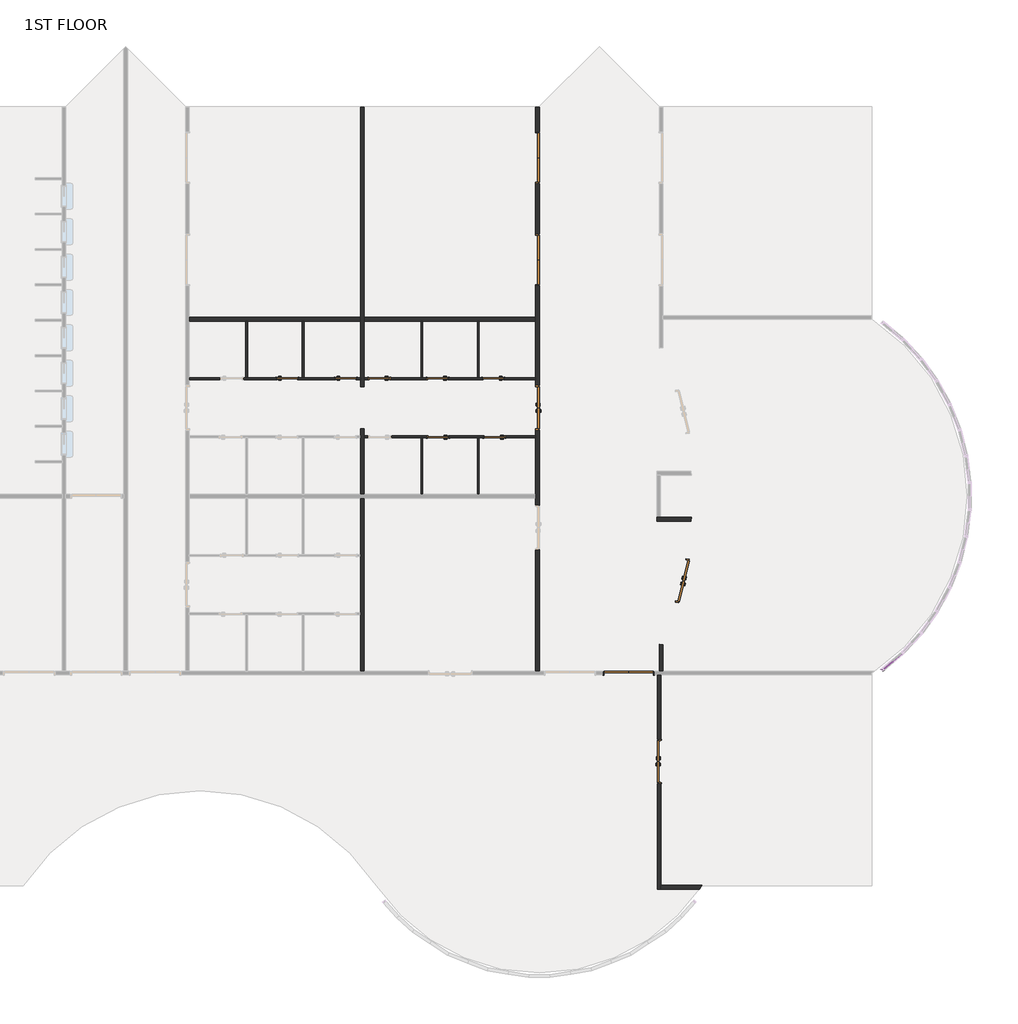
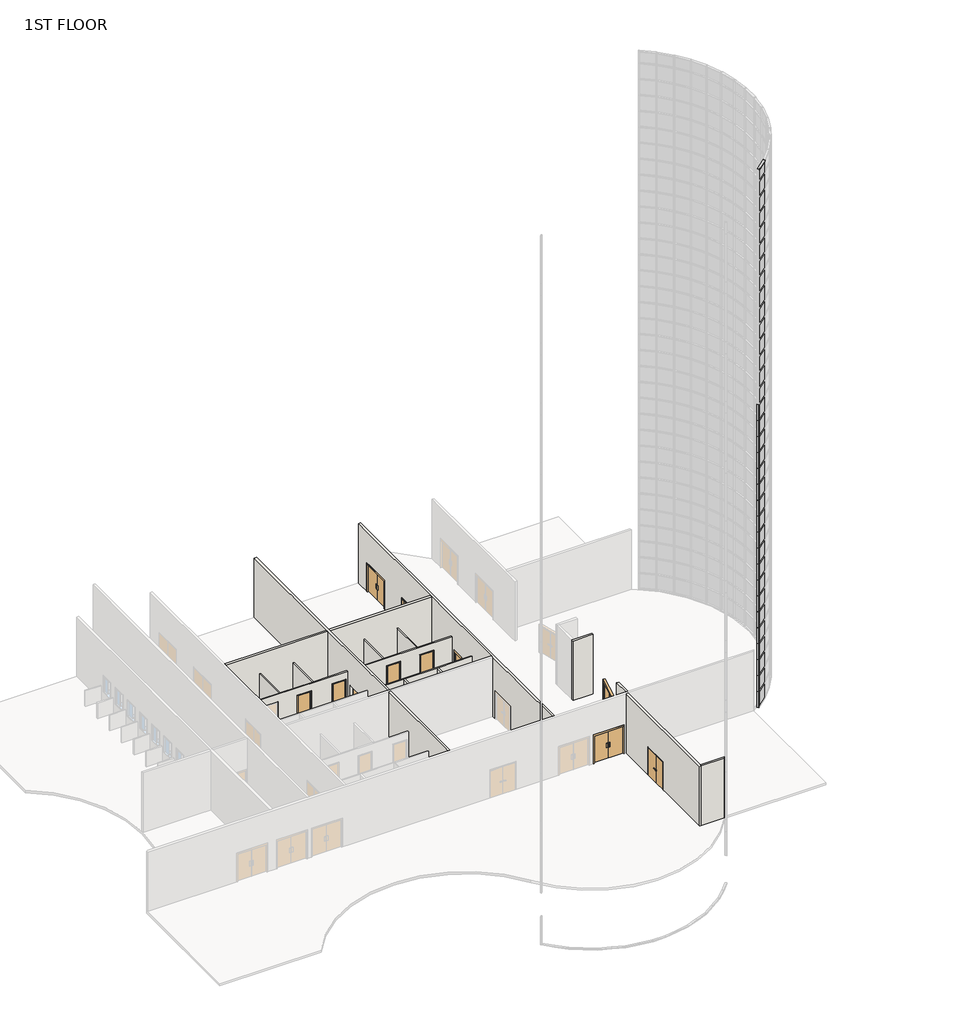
# One storey, part 3 of 17: 34 plates, 20 members, 16 walls, 13 doors.
"""IFC4 building model written with IfcOpenShell, lengths in millimetres."""

from ifc_helpers import new_model, si_unit, point, frame, frame_2d, origin, place, context, project, spatial, polyline, circle_curve, trimmed, segment, composite_curve, outline, extrude, faceted_brep, transform, mapped, element, save
from ifc_brep_helpers import plane_surface, cylinder_surface, advanced_brep
from components import door_2f250f70, door_df8e76c5, door_0b13e4d9, door_979b1b8c, door_f8b587be, member_8b20f1e8, member_75074519, system_panel_glazed_523f05bf, system_panel_glazed_4e7d67ad, system_panel_glazed_17a02f56

model = new_model("IFC4")

# Units and contexts
model_context = context("Model", 3, world=origin())
ifc_project = project(units=[si_unit("LENGTHUNIT", "METRE", prefix="MILLI")], contexts=[model_context])

# Site, building, storey
site = spatial("IfcSite", under=ifc_project)
building = spatial("IfcBuilding", under=site)
storey = spatial("IfcBuildingStorey", under=building, Name="1ST FLOOR", Elevation=4572.0)

# Doors
placement = place(None, origin())
door_shape = door_2f250f70(model_context)
element("IfcDoor", 1, ObjectType="Door-Passage-Double-Flush : 72\" x 82\"", at=placement, inside=storey, context=model_context, shape_type="MappedRepresentation", body=[
    mapped(door_shape, transform((34887.5089577, 5494.3375, 4572.0), x_axis=(0.0, 1.0, 0.0), y_axis=(-1.0, 0.0, 0.0), z_axis=(0.0, 0.0, 1.0))),
])
door_2_shape = door_df8e76c5(model_context)
element("IfcDoor", 2, ObjectType="Door-Passage-Double-Flush : 72\" x 82\"", at=placement, inside=storey, context=model_context, shape_type="MappedRepresentation", body=[
    mapped(door_2_shape, transform((35886.7385063, 13277.3403388, 4572.0), x_axis=(0.23936619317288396, 0.9709293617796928, 0.0), y_axis=(-0.9709293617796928, 0.23936619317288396, 0.0), z_axis=(0.0, 0.0, 1.0))),
])
element("IfcDoor", 3, ObjectType="Door-Passage-Double-Flush : 72\" x 82\"", at=placement, inside=storey, context=model_context, shape_type="MappedRepresentation", body=[
    mapped(door_2_shape, transform((29628.0650257, 20729.575, 4572.0), x_axis=(0.0, 1.0, 0.0), y_axis=(-1.0, 0.0, 0.0), z_axis=(0.0, 0.0, 1.0))),
])
door_3_shape = door_0b13e4d9(model_context)
element("IfcDoor", 4, ObjectType="Door-Passage-Double-Flush-Dbl_Acting : 84\" x 84\"", at=placement, inside=storey, context=model_context, shape_type="MappedRepresentation", body=[
    mapped(door_3_shape, transform((33564.0300515, 9293.225, 4572.0), x_axis=(-1.0, 0.0, 0.0), y_axis=(0.0, -1.0, 0.0), z_axis=(0.0, 0.0, 1.0))),
])
element("IfcDoor", 5, ObjectType="Door-Passage-Double-Flush-Dbl_Acting : 84\" x 84\"", at=placement, inside=storey, context=model_context, shape_type="MappedRepresentation", body=[
    mapped(door_3_shape, transform((29628.0650257, 31499.175, 4572.0), x_axis=(0.0, 1.0, 0.0), y_axis=(-1.0, 0.0, 0.0), z_axis=(0.0, 0.0, 1.0))),
])
element("IfcDoor", 6, ObjectType="Door-Passage-Double-Flush-Dbl_Acting : 84\" x 84\"", at=placement, inside=storey, context=model_context, shape_type="MappedRepresentation", body=[
    mapped(door_3_shape, transform((29628.0650257, 27101.8, 4572.0), x_axis=(0.0, 1.0, 0.0), y_axis=(-1.0, 0.0, 0.0), z_axis=(0.0, 0.0, 1.0))),
])
door_4_shape = door_979b1b8c(model_context)
element("IfcDoor", 7, ObjectType="Door-Passage-Single-Flush : 36\" x 96\"", at=placement, inside=storey, context=model_context, shape_type="MappedRepresentation", body=[
    mapped(door_4_shape, transform((18855.2900257, 21977.35, 4572.0), x_axis=(1.0, 0.0, 0.0), y_axis=(0.0, 1.0, 0.0), z_axis=(0.0, 0.0, 1.0))),
])
element("IfcDoor", 8, ObjectType="Door-Passage-Single-Flush : 36\" x 96\"", at=placement, inside=storey, context=model_context, shape_type="MappedRepresentation", body=[
    mapped(door_4_shape, transform((21373.0650257, 21977.35, 4572.0), x_axis=(1.0, 0.0, 0.0), y_axis=(0.0, 1.0, 0.0), z_axis=(0.0, 0.0, 1.0))),
])
element("IfcDoor", 9, ObjectType="Door-Passage-Single-Flush : 36\" x 96\"", at=placement, inside=storey, context=model_context, shape_type="MappedRepresentation", body=[
    mapped(door_4_shape, transform((27778.6275257, 19481.8, 4572.0), x_axis=(-1.0, 0.0, 0.0), y_axis=(0.0, -1.0, 0.0), z_axis=(0.0, 0.0, 1.0))),
])
element("IfcDoor", 10, ObjectType="Door-Passage-Single-Flush : 36\" x 96\"", at=placement, inside=storey, context=model_context, shape_type="MappedRepresentation", body=[
    mapped(door_4_shape, transform((25348.1650257, 19481.8, 4572.0), x_axis=(-1.0, 0.0, 0.0), y_axis=(0.0, -1.0, 0.0), z_axis=(0.0, 0.0, 1.0))),
])
door_5_shape = door_f8b587be(model_context)
element("IfcDoor", 11, ObjectType="Door-Passage-Single-Flush : 36\" x 96\"", at=placement, inside=storey, context=model_context, shape_type="MappedRepresentation", body=[
    mapped(door_5_shape, transform((27727.8275257, 21977.35, 4572.0), x_axis=(-1.0, 0.0, 0.0), y_axis=(0.0, -1.0, 0.0), z_axis=(0.0, 0.0, 1.0))),
])
element("IfcDoor", 12, ObjectType="Door-Passage-Single-Flush : 36\" x 96\"", at=placement, inside=storey, context=model_context, shape_type="MappedRepresentation", body=[
    mapped(door_5_shape, transform((25329.1150257, 21977.35, 4572.0), x_axis=(-1.0, 0.0, 0.0), y_axis=(0.0, -1.0, 0.0), z_axis=(0.0, 0.0, 1.0))),
])
element("IfcDoor", 13, ObjectType="Door-Passage-Single-Flush : 36\" x 96\"", at=placement, inside=storey, context=model_context, shape_type="MappedRepresentation", body=[
    mapped(door_5_shape, transform((22811.3400257, 21977.35, 4572.0), x_axis=(-1.0, 0.0, 0.0), y_axis=(0.0, -1.0, 0.0), z_axis=(0.0, 0.0, 1.0))),
])

# Members
member_shape = member_8b20f1e8(model_context)
element("IfcMember", 14, ObjectType="Rectangular Mullion : 2.5\" x 5\" rectangular", at=placement, inside=storey, context=model_context, shape_type="MappedRepresentation", body=[
    mapped(member_shape, transform((44528.7242152, 9465.6708976, 45720.0), x_axis=(0.0, 0.0, 1.0), y_axis=(-0.6412039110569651, 0.7673705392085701, 0.0), z_axis=(-0.7673705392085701, -0.6412039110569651, 0.0))),
])
member_2_shape = member_75074519(model_context)
element("IfcMember", 15, ObjectType="Rectangular Mullion : 2.5\" x 5\" rectangular", at=placement, inside=storey, context=model_context, shape_type="MappedRepresentation", body=[
    mapped(member_2_shape, transform((44479.996186, 9424.9544493, 4572.0), x_axis=(-0.7673705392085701, -0.6412039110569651, 0.0), y_axis=(-0.6412039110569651, 0.7673705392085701, 0.0), z_axis=(0.0, 0.0, -1.0))),
])
element("IfcMember", 16, ObjectType="Rectangular Mullion : 2.5\" x 5\" rectangular", at=placement, inside=storey, context=model_context, shape_type="MappedRepresentation", body=[
    mapped(member_2_shape, transform((44479.996186, 9424.9544493, 5791.2), x_axis=(-0.7673705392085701, -0.6412039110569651, 0.0), y_axis=(-0.6412039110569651, 0.7673705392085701, 0.0), z_axis=(0.0, 0.0, -1.0))),
])
element("IfcMember", 17, ObjectType="Rectangular Mullion : 2.5\" x 5\" rectangular", at=placement, inside=storey, context=model_context, shape_type="MappedRepresentation", body=[
    mapped(member_2_shape, transform((44479.996186, 9424.9544493, 7010.4), x_axis=(-0.7673705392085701, -0.6412039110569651, 0.0), y_axis=(-0.6412039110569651, 0.7673705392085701, 0.0), z_axis=(0.0, 0.0, -1.0))),
])
element("IfcMember", 18, ObjectType="Rectangular Mullion : 2.5\" x 5\" rectangular", at=placement, inside=storey, context=model_context, shape_type="MappedRepresentation", body=[
    mapped(member_2_shape, transform((44479.996186, 9424.9544493, 8229.6), x_axis=(-0.7673705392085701, -0.6412039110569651, 0.0), y_axis=(-0.6412039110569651, 0.7673705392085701, 0.0), z_axis=(0.0, 0.0, -1.0))),
])
element("IfcMember", 19, ObjectType="Rectangular Mullion : 2.5\" x 5\" rectangular", at=placement, inside=storey, context=model_context, shape_type="MappedRepresentation", body=[
    mapped(member_2_shape, transform((44479.996186, 9424.9544493, 9448.8), x_axis=(-0.7673705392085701, -0.6412039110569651, 0.0), y_axis=(-0.6412039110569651, 0.7673705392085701, 0.0), z_axis=(0.0, 0.0, -1.0))),
])
element("IfcMember", 20, ObjectType="Rectangular Mullion : 2.5\" x 5\" rectangular", at=placement, inside=storey, context=model_context, shape_type="MappedRepresentation", body=[
    mapped(member_2_shape, transform((44479.996186, 9424.9544493, 10668.0), x_axis=(-0.7673705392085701, -0.6412039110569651, 0.0), y_axis=(-0.6412039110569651, 0.7673705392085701, 0.0), z_axis=(0.0, 0.0, -1.0))),
])
element("IfcMember", 21, ObjectType="Rectangular Mullion : 2.5\" x 5\" rectangular", at=placement, inside=storey, context=model_context, shape_type="MappedRepresentation", body=[
    mapped(member_2_shape, transform((44479.996186, 9424.9544493, 11887.2), x_axis=(-0.7673705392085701, -0.6412039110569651, 0.0), y_axis=(-0.6412039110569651, 0.7673705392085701, 0.0), z_axis=(0.0, 0.0, -1.0))),
])
element("IfcMember", 22, ObjectType="Rectangular Mullion : 2.5\" x 5\" rectangular", at=placement, inside=storey, context=model_context, shape_type="MappedRepresentation", body=[
    mapped(member_2_shape, transform((44479.996186, 9424.9544493, 13106.4), x_axis=(-0.7673705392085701, -0.6412039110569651, 0.0), y_axis=(-0.6412039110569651, 0.7673705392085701, 0.0), z_axis=(0.0, 0.0, -1.0))),
])
element("IfcMember", 23, ObjectType="Rectangular Mullion : 2.5\" x 5\" rectangular", at=placement, inside=storey, context=model_context, shape_type="MappedRepresentation", body=[
    mapped(member_2_shape, transform((44479.996186, 9424.9544493, 14325.6), x_axis=(-0.7673705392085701, -0.6412039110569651, 0.0), y_axis=(-0.6412039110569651, 0.7673705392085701, 0.0), z_axis=(0.0, 0.0, -1.0))),
])
element("IfcMember", 24, ObjectType="Rectangular Mullion : 2.5\" x 5\" rectangular", at=placement, inside=storey, context=model_context, shape_type="MappedRepresentation", body=[
    mapped(member_2_shape, transform((44479.996186, 9424.9544493, 15544.8), x_axis=(-0.7673705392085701, -0.6412039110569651, 0.0), y_axis=(-0.6412039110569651, 0.7673705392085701, 0.0), z_axis=(0.0, 0.0, -1.0))),
])
element("IfcMember", 25, ObjectType="Rectangular Mullion : 2.5\" x 5\" rectangular", at=placement, inside=storey, context=model_context, shape_type="MappedRepresentation", body=[
    mapped(member_2_shape, transform((44479.996186, 9424.9544493, 16764.0), x_axis=(-0.7673705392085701, -0.6412039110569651, 0.0), y_axis=(-0.6412039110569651, 0.7673705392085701, 0.0), z_axis=(0.0, 0.0, -1.0))),
])
element("IfcMember", 26, ObjectType="Rectangular Mullion : 2.5\" x 5\" rectangular", at=placement, inside=storey, context=model_context, shape_type="MappedRepresentation", body=[
    mapped(member_2_shape, transform((44479.996186, 9424.9544493, 17983.2), x_axis=(-0.7673705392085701, -0.6412039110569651, 0.0), y_axis=(-0.6412039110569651, 0.7673705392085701, 0.0), z_axis=(0.0, 0.0, -1.0))),
])
element("IfcMember", 27, ObjectType="Rectangular Mullion : 2.5\" x 5\" rectangular", at=placement, inside=storey, context=model_context, shape_type="MappedRepresentation", body=[
    mapped(member_2_shape, transform((44479.996186, 9424.9544493, 19202.4), x_axis=(-0.7673705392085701, -0.6412039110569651, 0.0), y_axis=(-0.6412039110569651, 0.7673705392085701, 0.0), z_axis=(0.0, 0.0, -1.0))),
])
element("IfcMember", 28, ObjectType="Rectangular Mullion : 2.5\" x 5\" rectangular", at=placement, inside=storey, context=model_context, shape_type="MappedRepresentation", body=[
    mapped(member_2_shape, transform((44479.996186, 9424.9544493, 20421.6), x_axis=(-0.7673705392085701, -0.6412039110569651, 0.0), y_axis=(-0.6412039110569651, 0.7673705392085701, 0.0), z_axis=(0.0, 0.0, -1.0))),
])
element("IfcMember", 29, ObjectType="Rectangular Mullion : 2.5\" x 5\" rectangular", at=placement, inside=storey, context=model_context, shape_type="MappedRepresentation", body=[
    mapped(member_2_shape, transform((44479.996186, 9424.9544493, 21640.8), x_axis=(-0.7673705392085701, -0.6412039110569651, 0.0), y_axis=(-0.6412039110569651, 0.7673705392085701, 0.0), z_axis=(0.0, 0.0, -1.0))),
])
element("IfcMember", 30, ObjectType="Rectangular Mullion : 2.5\" x 5\" rectangular", at=placement, inside=storey, context=model_context, shape_type="MappedRepresentation", body=[
    mapped(member_2_shape, transform((44479.996186, 9424.9544493, 22860.0), x_axis=(-0.7673705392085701, -0.6412039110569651, 0.0), y_axis=(-0.6412039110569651, 0.7673705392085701, 0.0), z_axis=(0.0, 0.0, -1.0))),
])
element("IfcMember", 31, ObjectType="Rectangular Mullion : 2.5\" x 5\" rectangular", at=placement, inside=storey, context=model_context, shape_type="MappedRepresentation", body=[
    mapped(member_2_shape, transform((44479.996186, 9424.9544493, 24079.2), x_axis=(-0.7673705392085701, -0.6412039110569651, 0.0), y_axis=(-0.6412039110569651, 0.7673705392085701, 0.0), z_axis=(0.0, 0.0, -1.0))),
])
element("IfcMember", 32, ObjectType="Rectangular Mullion : 2.5\" x 5\" rectangular", at=placement, inside=storey, context=model_context, shape_type="MappedRepresentation", body=[
    mapped(member_2_shape, transform((44479.996186, 9424.9544493, 25298.4), x_axis=(-0.7673705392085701, -0.6412039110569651, 0.0), y_axis=(-0.6412039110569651, 0.7673705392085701, 0.0), z_axis=(0.0, 0.0, -1.0))),
])
element("IfcMember", 33, ObjectType="Rectangular Mullion : 2.5\" x 5\" rectangular", at=placement, inside=storey, context=model_context, shape_type="MappedRepresentation", body=[
    mapped(member_2_shape, transform((44479.996186, 9424.9544493, 26517.6), x_axis=(-0.7673705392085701, -0.6412039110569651, 0.0), y_axis=(-0.6412039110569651, 0.7673705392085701, 0.0), z_axis=(0.0, 0.0, -1.0))),
])

# Plates
system_panel_glazed_shape = system_panel_glazed_523f05bf(model_context)
element("IfcPlate", 34, ObjectType="System Panel : Glazed", at=placement, inside=storey, context=model_context, shape_type="MappedRepresentation", body=[
    mapped(system_panel_glazed_shape, transform((44937.7643703, 9807.459035, 4635.5), x_axis=(-0.7673705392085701, -0.6412039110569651, 0.0), y_axis=(0.6412039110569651, -0.7673705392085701, 0.0), z_axis=(0.0, 0.0, 1.0))),
])
system_panel_glazed_2_shape = system_panel_glazed_4e7d67ad(model_context)
element("IfcPlate", 35, ObjectType="System Panel : Glazed", at=placement, inside=storey, context=model_context, shape_type="MappedRepresentation", body=[
    mapped(system_panel_glazed_2_shape, transform((44937.7643703, 9807.459035, 5822.95), x_axis=(-0.7673705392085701, -0.6412039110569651, 0.0), y_axis=(0.6412039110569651, -0.7673705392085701, 0.0), z_axis=(0.0, 0.0, 1.0))),
])
element("IfcPlate", 36, ObjectType="System Panel : Glazed", at=placement, inside=storey, context=model_context, shape_type="MappedRepresentation", body=[
    mapped(system_panel_glazed_2_shape, transform((44937.7643703, 9807.459035, 7042.15), x_axis=(-0.7673705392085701, -0.6412039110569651, 0.0), y_axis=(0.6412039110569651, -0.7673705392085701, 0.0), z_axis=(0.0, 0.0, 1.0))),
])
element("IfcPlate", 37, ObjectType="System Panel : Glazed", at=placement, inside=storey, context=model_context, shape_type="MappedRepresentation", body=[
    mapped(system_panel_glazed_2_shape, transform((44937.7643703, 9807.459035, 8261.35), x_axis=(-0.7673705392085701, -0.6412039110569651, 0.0), y_axis=(0.6412039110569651, -0.7673705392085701, 0.0), z_axis=(0.0, 0.0, 1.0))),
])
element("IfcPlate", 38, ObjectType="System Panel : Glazed", at=placement, inside=storey, context=model_context, shape_type="MappedRepresentation", body=[
    mapped(system_panel_glazed_2_shape, transform((44937.7643703, 9807.459035, 9480.55), x_axis=(-0.7673705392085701, -0.6412039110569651, 0.0), y_axis=(0.6412039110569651, -0.7673705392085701, 0.0), z_axis=(0.0, 0.0, 1.0))),
])
element("IfcPlate", 39, ObjectType="System Panel : Glazed", at=placement, inside=storey, context=model_context, shape_type="MappedRepresentation", body=[
    mapped(system_panel_glazed_2_shape, transform((44937.7643703, 9807.459035, 10699.75), x_axis=(-0.7673705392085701, -0.6412039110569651, 0.0), y_axis=(0.6412039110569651, -0.7673705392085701, 0.0), z_axis=(0.0, 0.0, 1.0))),
])
element("IfcPlate", 40, ObjectType="System Panel : Glazed", at=placement, inside=storey, context=model_context, shape_type="MappedRepresentation", body=[
    mapped(system_panel_glazed_2_shape, transform((44937.7643703, 9807.459035, 11918.95), x_axis=(-0.7673705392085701, -0.6412039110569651, 0.0), y_axis=(0.6412039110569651, -0.7673705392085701, 0.0), z_axis=(0.0, 0.0, 1.0))),
])
element("IfcPlate", 41, ObjectType="System Panel : Glazed", at=placement, inside=storey, context=model_context, shape_type="MappedRepresentation", body=[
    mapped(system_panel_glazed_2_shape, transform((44937.7643703, 9807.459035, 13138.15), x_axis=(-0.7673705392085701, -0.6412039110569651, 0.0), y_axis=(0.6412039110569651, -0.7673705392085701, 0.0), z_axis=(0.0, 0.0, 1.0))),
])
element("IfcPlate", 42, ObjectType="System Panel : Glazed", at=placement, inside=storey, context=model_context, shape_type="MappedRepresentation", body=[
    mapped(system_panel_glazed_2_shape, transform((44937.7643703, 9807.459035, 14357.35), x_axis=(-0.7673705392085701, -0.6412039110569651, 0.0), y_axis=(0.6412039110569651, -0.7673705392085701, 0.0), z_axis=(0.0, 0.0, 1.0))),
])
element("IfcPlate", 43, ObjectType="System Panel : Glazed", at=placement, inside=storey, context=model_context, shape_type="MappedRepresentation", body=[
    mapped(system_panel_glazed_2_shape, transform((44937.7643703, 9807.459035, 15576.55), x_axis=(-0.7673705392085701, -0.6412039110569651, 0.0), y_axis=(0.6412039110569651, -0.7673705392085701, 0.0), z_axis=(0.0, 0.0, 1.0))),
])
element("IfcPlate", 44, ObjectType="System Panel : Glazed", at=placement, inside=storey, context=model_context, shape_type="MappedRepresentation", body=[
    mapped(system_panel_glazed_2_shape, transform((44937.7643703, 9807.459035, 16795.75), x_axis=(-0.7673705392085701, -0.6412039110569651, 0.0), y_axis=(0.6412039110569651, -0.7673705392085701, 0.0), z_axis=(0.0, 0.0, 1.0))),
])
element("IfcPlate", 45, ObjectType="System Panel : Glazed", at=placement, inside=storey, context=model_context, shape_type="MappedRepresentation", body=[
    mapped(system_panel_glazed_2_shape, transform((44937.7643703, 9807.459035, 18014.95), x_axis=(-0.7673705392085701, -0.6412039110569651, 0.0), y_axis=(0.6412039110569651, -0.7673705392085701, 0.0), z_axis=(0.0, 0.0, 1.0))),
])
element("IfcPlate", 46, ObjectType="System Panel : Glazed", at=placement, inside=storey, context=model_context, shape_type="MappedRepresentation", body=[
    mapped(system_panel_glazed_2_shape, transform((44937.7643703, 9807.459035, 19234.15), x_axis=(-0.7673705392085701, -0.6412039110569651, 0.0), y_axis=(0.6412039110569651, -0.7673705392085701, 0.0), z_axis=(0.0, 0.0, 1.0))),
])
element("IfcPlate", 47, ObjectType="System Panel : Glazed", at=placement, inside=storey, context=model_context, shape_type="MappedRepresentation", body=[
    mapped(system_panel_glazed_2_shape, transform((44937.7643703, 9807.459035, 20453.35), x_axis=(-0.7673705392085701, -0.6412039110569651, 0.0), y_axis=(0.6412039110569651, -0.7673705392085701, 0.0), z_axis=(0.0, 0.0, 1.0))),
])
element("IfcPlate", 48, ObjectType="System Panel : Glazed", at=placement, inside=storey, context=model_context, shape_type="MappedRepresentation", body=[
    mapped(system_panel_glazed_2_shape, transform((44937.7643703, 9807.459035, 21672.55), x_axis=(-0.7673705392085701, -0.6412039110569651, 0.0), y_axis=(0.6412039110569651, -0.7673705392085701, 0.0), z_axis=(0.0, 0.0, 1.0))),
])
element("IfcPlate", 49, ObjectType="System Panel : Glazed", at=placement, inside=storey, context=model_context, shape_type="MappedRepresentation", body=[
    mapped(system_panel_glazed_2_shape, transform((44937.7643703, 9807.459035, 22891.75), x_axis=(-0.7673705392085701, -0.6412039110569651, 0.0), y_axis=(0.6412039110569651, -0.7673705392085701, 0.0), z_axis=(0.0, 0.0, 1.0))),
])
element("IfcPlate", 50, ObjectType="System Panel : Glazed", at=placement, inside=storey, context=model_context, shape_type="MappedRepresentation", body=[
    mapped(system_panel_glazed_2_shape, transform((44937.7643703, 9807.459035, 24110.95), x_axis=(-0.7673705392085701, -0.6412039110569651, 0.0), y_axis=(0.6412039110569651, -0.7673705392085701, 0.0), z_axis=(0.0, 0.0, 1.0))),
])
element("IfcPlate", 51, ObjectType="System Panel : Glazed", at=placement, inside=storey, context=model_context, shape_type="MappedRepresentation", body=[
    mapped(system_panel_glazed_2_shape, transform((44937.7643703, 9807.459035, 25330.15), x_axis=(-0.7673705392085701, -0.6412039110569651, 0.0), y_axis=(0.6412039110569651, -0.7673705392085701, 0.0), z_axis=(0.0, 0.0, 1.0))),
])
element("IfcPlate", 52, ObjectType="System Panel : Glazed", at=placement, inside=storey, context=model_context, shape_type="MappedRepresentation", body=[
    mapped(system_panel_glazed_2_shape, transform((44937.7643703, 9807.459035, 26549.35), x_axis=(-0.7673705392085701, -0.6412039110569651, 0.0), y_axis=(0.6412039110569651, -0.7673705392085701, 0.0), z_axis=(0.0, 0.0, 1.0))),
])
element("IfcPlate", 53, ObjectType="System Panel : Glazed", at=placement, inside=storey, context=model_context, shape_type="MappedRepresentation", body=[
    mapped(system_panel_glazed_2_shape, transform((44937.7643703, 9807.459035, 27768.55), x_axis=(-0.7673705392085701, -0.6412039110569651, 0.0), y_axis=(0.6412039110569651, -0.7673705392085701, 0.0), z_axis=(0.0, 0.0, 1.0))),
])
element("IfcPlate", 54, ObjectType="System Panel : Glazed", at=placement, inside=storey, context=model_context, shape_type="MappedRepresentation", body=[
    mapped(system_panel_glazed_2_shape, transform((44937.7643703, 9807.459035, 28987.75), x_axis=(-0.7673705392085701, -0.6412039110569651, 0.0), y_axis=(0.6412039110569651, -0.7673705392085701, 0.0), z_axis=(0.0, 0.0, 1.0))),
])
element("IfcPlate", 55, ObjectType="System Panel : Glazed", at=placement, inside=storey, context=model_context, shape_type="MappedRepresentation", body=[
    mapped(system_panel_glazed_2_shape, transform((44937.7643703, 9807.459035, 30206.95), x_axis=(-0.7673705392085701, -0.6412039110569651, 0.0), y_axis=(0.6412039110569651, -0.7673705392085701, 0.0), z_axis=(0.0, 0.0, 1.0))),
])
element("IfcPlate", 56, ObjectType="System Panel : Glazed", at=placement, inside=storey, context=model_context, shape_type="MappedRepresentation", body=[
    mapped(system_panel_glazed_2_shape, transform((44937.7643703, 9807.459035, 31426.15), x_axis=(-0.7673705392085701, -0.6412039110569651, 0.0), y_axis=(0.6412039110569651, -0.7673705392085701, 0.0), z_axis=(0.0, 0.0, 1.0))),
])
element("IfcPlate", 57, ObjectType="System Panel : Glazed", at=placement, inside=storey, context=model_context, shape_type="MappedRepresentation", body=[
    mapped(system_panel_glazed_2_shape, transform((44937.7643703, 9807.459035, 32645.35), x_axis=(-0.7673705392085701, -0.6412039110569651, 0.0), y_axis=(0.6412039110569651, -0.7673705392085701, 0.0), z_axis=(0.0, 0.0, 1.0))),
])
element("IfcPlate", 58, ObjectType="System Panel : Glazed", at=placement, inside=storey, context=model_context, shape_type="MappedRepresentation", body=[
    mapped(system_panel_glazed_2_shape, transform((44937.7643703, 9807.459035, 33864.55), x_axis=(-0.7673705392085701, -0.6412039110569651, 0.0), y_axis=(0.6412039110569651, -0.7673705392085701, 0.0), z_axis=(0.0, 0.0, 1.0))),
])
element("IfcPlate", 59, ObjectType="System Panel : Glazed", at=placement, inside=storey, context=model_context, shape_type="MappedRepresentation", body=[
    mapped(system_panel_glazed_2_shape, transform((44937.7643703, 9807.459035, 35083.75), x_axis=(-0.7673705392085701, -0.6412039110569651, 0.0), y_axis=(0.6412039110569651, -0.7673705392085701, 0.0), z_axis=(0.0, 0.0, 1.0))),
])
element("IfcPlate", 60, ObjectType="System Panel : Glazed", at=placement, inside=storey, context=model_context, shape_type="MappedRepresentation", body=[
    mapped(system_panel_glazed_2_shape, transform((44937.7643703, 9807.459035, 36302.95), x_axis=(-0.7673705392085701, -0.6412039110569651, 0.0), y_axis=(0.6412039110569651, -0.7673705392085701, 0.0), z_axis=(0.0, 0.0, 1.0))),
])
element("IfcPlate", 61, ObjectType="System Panel : Glazed", at=placement, inside=storey, context=model_context, shape_type="MappedRepresentation", body=[
    mapped(system_panel_glazed_2_shape, transform((44937.7643703, 9807.459035, 37522.15), x_axis=(-0.7673705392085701, -0.6412039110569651, 0.0), y_axis=(0.6412039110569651, -0.7673705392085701, 0.0), z_axis=(0.0, 0.0, 1.0))),
])
element("IfcPlate", 62, ObjectType="System Panel : Glazed", at=placement, inside=storey, context=model_context, shape_type="MappedRepresentation", body=[
    mapped(system_panel_glazed_2_shape, transform((44937.7643703, 9807.459035, 38741.35), x_axis=(-0.7673705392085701, -0.6412039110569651, 0.0), y_axis=(0.6412039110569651, -0.7673705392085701, 0.0), z_axis=(0.0, 0.0, 1.0))),
])
element("IfcPlate", 63, ObjectType="System Panel : Glazed", at=placement, inside=storey, context=model_context, shape_type="MappedRepresentation", body=[
    mapped(system_panel_glazed_2_shape, transform((44937.7643703, 9807.459035, 39960.55), x_axis=(-0.7673705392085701, -0.6412039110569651, 0.0), y_axis=(0.6412039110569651, -0.7673705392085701, 0.0), z_axis=(0.0, 0.0, 1.0))),
])
element("IfcPlate", 64, ObjectType="System Panel : Glazed", at=placement, inside=storey, context=model_context, shape_type="MappedRepresentation", body=[
    mapped(system_panel_glazed_2_shape, transform((44937.7643703, 9807.459035, 41179.75), x_axis=(-0.7673705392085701, -0.6412039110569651, 0.0), y_axis=(0.6412039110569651, -0.7673705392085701, 0.0), z_axis=(0.0, 0.0, 1.0))),
])
element("IfcPlate", 65, ObjectType="System Panel : Glazed", at=placement, inside=storey, context=model_context, shape_type="MappedRepresentation", body=[
    mapped(system_panel_glazed_2_shape, transform((44937.7643703, 9807.459035, 42398.95), x_axis=(-0.7673705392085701, -0.6412039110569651, 0.0), y_axis=(0.6412039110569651, -0.7673705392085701, 0.0), z_axis=(0.0, 0.0, 1.0))),
])
element("IfcPlate", 66, ObjectType="System Panel : Glazed", at=placement, inside=storey, context=model_context, shape_type="MappedRepresentation", body=[
    mapped(system_panel_glazed_2_shape, transform((44937.7643703, 9807.459035, 43618.15), x_axis=(-0.7673705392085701, -0.6412039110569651, 0.0), y_axis=(0.6412039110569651, -0.7673705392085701, 0.0), z_axis=(0.0, 0.0, 1.0))),
])
system_panel_glazed_3_shape = system_panel_glazed_17a02f56(model_context)
element("IfcPlate", 67, ObjectType="System Panel : Glazed", at=placement, inside=storey, context=model_context, shape_type="MappedRepresentation", body=[
    mapped(system_panel_glazed_3_shape, transform((44937.7643703, 9807.459035, 44837.35), x_axis=(-0.7673705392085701, -0.6412039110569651, 0.0), y_axis=(0.6412039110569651, -0.7673705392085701, 0.0), z_axis=(0.0, 0.0, 1.0))),
])

# Walls
element("IfcWall", 68, ObjectType="SYR_INT_ONE_HOUR", at=placement, inside=storey, context=model_context, shape_type="SweptSolid", body=[
    extrude(outline(polyline([(17066.1775257, 22023.3875), (17066.1775257, 24461.7875), (17145.5525257, 24461.7875), (17145.5525257, 22023.3875), (17066.1775257, 22023.3875)])), frame((0.0, 0.0, 4572.0), z_axis=(0.0, 0.0, 1.0), x_axis=(1.0, 0.0, 0.0)), (0.0, 0.0, 1.0), 3048.0),
])
element("IfcWall", 69, ObjectType="SYR_INT_ONE_HOUR", at=placement, inside=storey, context=model_context, shape_type="Brep", body=[
    faceted_brep([(14627.7775257, 22023.3875, 7620.0), (17066.1775257, 22023.3875, 7620.0), (17145.5525257, 22023.3875, 7620.0), (19496.6400257, 22023.3875, 7620.0), (19576.0150257, 22023.3875, 7620.0), (22014.4150257, 22023.3875, 7620.0), (22014.4150257, 22023.3875, 4572.0), (21862.0150257, 22023.3875, 4572.0), (21862.0150257, 22023.3875, 7042.15), (20884.1150257, 22023.3875, 7042.15), (20884.1150257, 22023.3875, 4572.0), (19576.0150257, 22023.3875, 4572.0), (19496.6400257, 22023.3875, 4572.0), (19344.2400257, 22023.3875, 4572.0), (19344.2400257, 22023.3875, 7042.15), (18366.3400257, 22023.3875, 7042.15), (18366.3400257, 22023.3875, 4572.0), (17145.5525257, 22023.3875, 4572.0), (17066.1775257, 22023.3875, 4572.0), (16945.5275257, 22023.3875, 4572.0), (16945.5275257, 22023.3875, 7042.15), (15967.6275257, 22023.3875, 7042.15), (15967.6275257, 22023.3875, 4572.0), (14627.7775257, 22023.3875, 4572.0), (22014.4150257, 21944.0125, 7620.0), (14627.7775257, 21944.0125, 7620.0), (14627.7775257, 21944.0125, 4572.0), (15967.6275257, 21944.0125, 4572.0), (15967.6275257, 21944.0125, 7042.15), (16945.5275257, 21944.0125, 7042.15), (16945.5275257, 21944.0125, 4572.0), (18366.3400257, 21944.0125, 4572.0), (18366.3400257, 21944.0125, 7042.15), (19344.2400257, 21944.0125, 7042.15), (19344.2400257, 21944.0125, 4572.0), (20884.1150257, 21944.0125, 4572.0), (20884.1150257, 21944.0125, 7042.15), (21862.0150257, 21944.0125, 7042.15), (21862.0150257, 21944.0125, 4572.0), (22014.4150257, 21944.0125, 4572.0)], [[[0, 1, 2, 3, 4, 5, 6, 7, 8, 9, 10, 11, 12, 13, 14, 15, 16, 17, 18, 19, 20, 21, 22, 23]], [[24, 25, 26, 27, 28, 29, 30, 31, 32, 33, 34, 35, 36, 37, 38, 39]], [[23, 22, 27, 26]], [[30, 19, 18, 17, 16, 31]], [[34, 13, 12, 11, 10, 35]], [[6, 39, 38, 7]], [[5, 4, 3, 2, 1, 0, 25, 24]], [[29, 20, 19, 30]], [[20, 29, 28, 21]], [[21, 28, 27, 22]], [[14, 13, 34, 33]], [[15, 14, 33, 32]], [[16, 15, 32, 31]], [[37, 8, 7, 38]], [[8, 37, 36, 9]], [[9, 36, 35, 10]], [[0, 23, 26, 25]], [[6, 5, 24, 39]]]),
])
element("IfcWall", 70, ObjectType="SYR_INT_ONE_HOUR", at=placement, inside=storey, context=model_context, shape_type="SweptSolid", body=[
    extrude(outline(polyline([(19576.0150257, 24461.7875), (19576.0150257, 22023.3875), (19496.6400257, 22023.3875), (19496.6400257, 24461.7875), (19576.0150257, 24461.7875)])), frame((0.0, 0.0, 4572.0), z_axis=(0.0, 0.0, 1.0), x_axis=(1.0, 0.0, 0.0)), (0.0, 0.0, 1.0), 3048.0),
])
element("IfcWall", 71, ObjectType="SYR_INT_ONE_HOUR", at=placement, inside=storey, context=model_context, shape_type="SweptSolid", body=[
    extrude(outline(polyline([(27038.8525257, 22023.3875), (27038.8525257, 24461.7875), (27118.2275257, 24461.7875), (27118.2275257, 22023.3875), (27038.8525257, 22023.3875)])), frame((0.0, 0.0, 4572.0), z_axis=(0.0, 0.0, 1.0), x_axis=(1.0, 0.0, 0.0)), (0.0, 0.0, 1.0), 3048.0),
])
element("IfcWall", 72, ObjectType="SYR_INT_ONE_HOUR", at=placement, inside=storey, context=model_context, shape_type="SweptSolid", body=[
    extrude(outline(polyline([(24687.7650257, 19435.7625), (24687.7650257, 16997.3625), (24608.3900257, 16997.3625), (24608.3900257, 19435.7625), (24687.7650257, 19435.7625)])), frame((0.0, 0.0, 4572.0), z_axis=(0.0, 0.0, 1.0), x_axis=(1.0, 0.0, 0.0)), (0.0, 0.0, 1.0), 3048.0),
])
element("IfcWall", 73, ObjectType="SYR_INT_ONE_HOUR", at=placement, inside=storey, context=model_context, shape_type="Brep", body=[
    faceted_brep([(29556.6275257, 21944.0125, 7620.0), (22169.9900257, 21944.0125, 7620.0), (22169.9900257, 21944.0125, 4572.0), (22322.3900257, 21944.0125, 4572.0), (22322.3900257, 21944.0125, 7042.15), (23300.2900257, 21944.0125, 7042.15), (23300.2900257, 21944.0125, 4572.0), (24840.1650257, 21944.0125, 4572.0), (24840.1650257, 21944.0125, 7042.15), (25818.0650257, 21944.0125, 7042.15), (25818.0650257, 21944.0125, 4572.0), (27238.8775257, 21944.0125, 4572.0), (27238.8775257, 21944.0125, 7042.15), (28216.7775257, 21944.0125, 7042.15), (28216.7775257, 21944.0125, 4572.0), (29556.6275257, 21944.0125, 4572.0), (22169.9900257, 22023.3875, 7620.0), (24608.3900257, 22023.3875, 7620.0), (24687.7650257, 22023.3875, 7620.0), (27038.8525257, 22023.3875, 7620.0), (27118.2275257, 22023.3875, 7620.0), (29556.6275257, 22023.3875, 7620.0), (29556.6275257, 22023.3875, 4572.0), (28216.7775257, 22023.3875, 4572.0), (28216.7775257, 22023.3875, 7042.15), (27238.8775257, 22023.3875, 7042.15), (27238.8775257, 22023.3875, 4572.0), (27118.2275257, 22023.3875, 4572.0), (27038.8525257, 22023.3875, 4572.0), (25818.0650257, 22023.3875, 4572.0), (25818.0650257, 22023.3875, 7042.15), (24840.1650257, 22023.3875, 7042.15), (24840.1650257, 22023.3875, 4572.0), (24687.7650257, 22023.3875, 4572.0), (24608.3900257, 22023.3875, 4572.0), (23300.2900257, 22023.3875, 4572.0), (23300.2900257, 22023.3875, 7042.15), (22322.3900257, 22023.3875, 7042.15), (22322.3900257, 22023.3875, 4572.0), (22169.9900257, 22023.3875, 4572.0)], [[[0, 1, 2, 3, 4, 5, 6, 7, 8, 9, 10, 11, 12, 13, 14, 15]], [[16, 17, 18, 19, 20, 21, 22, 23, 24, 25, 26, 27, 28, 29, 30, 31, 32, 33, 34, 35, 36, 37, 38, 39]], [[15, 14, 23, 22]], [[26, 11, 10, 29, 28, 27]], [[32, 7, 6, 35, 34, 33]], [[2, 39, 38, 3]], [[1, 0, 21, 20, 19, 18, 17, 16]], [[25, 12, 11, 26]], [[12, 25, 24, 13]], [[13, 24, 23, 14]], [[8, 7, 32, 31]], [[9, 8, 31, 30]], [[10, 9, 30, 29]], [[37, 4, 3, 38]], [[4, 37, 36, 5]], [[5, 36, 35, 6]], [[0, 15, 22, 21]], [[2, 1, 16, 39]]]),
])
element("IfcWall", 74, ObjectType="SYR_INT_ONE_HOUR", at=placement, inside=storey, context=model_context, shape_type="Brep", body=[
    faceted_brep([(29556.6275257, 19435.7625, 7620.0), (27118.2275257, 19435.7625, 7620.0), (27038.8525257, 19435.7625, 7620.0), (24687.7650257, 19435.7625, 7620.0), (24608.3900257, 19435.7625, 7620.0), (22169.9900257, 19435.7625, 7620.0), (22169.9900257, 19435.7625, 4572.0), (22341.4400257, 19435.7625, 4572.0), (22341.4400257, 19435.7625, 7042.15), (23319.3400257, 19435.7625, 7042.15), (23319.3400257, 19435.7625, 4572.0), (24608.3900257, 19435.7625, 4572.0), (24687.7650257, 19435.7625, 4572.0), (24859.2150257, 19435.7625, 4572.0), (24859.2150257, 19435.7625, 7042.15), (25837.1150257, 19435.7625, 7042.15), (25837.1150257, 19435.7625, 4572.0), (27038.8525257, 19435.7625, 4572.0), (27118.2275257, 19435.7625, 4572.0), (27289.6775257, 19435.7625, 4572.0), (27289.6775257, 19435.7625, 7042.15), (28267.5775257, 19435.7625, 7042.15), (28267.5775257, 19435.7625, 4572.0), (29556.6275257, 19435.7625, 4572.0), (22169.9900257, 19515.1375, 7620.0), (29556.6275257, 19515.1375, 7620.0), (29556.6275257, 19515.1375, 4572.0), (28267.5775257, 19515.1375, 4572.0), (28267.5775257, 19515.1375, 7042.15), (27289.6775257, 19515.1375, 7042.15), (27289.6775257, 19515.1375, 4572.0), (25837.1150257, 19515.1375, 4572.0), (25837.1150257, 19515.1375, 7042.15), (24859.2150257, 19515.1375, 7042.15), (24859.2150257, 19515.1375, 4572.0), (23319.3400257, 19515.1375, 4572.0), (23319.3400257, 19515.1375, 7042.15), (22341.4400257, 19515.1375, 7042.15), (22341.4400257, 19515.1375, 4572.0), (22169.9900257, 19515.1375, 4572.0)], [[[0, 1, 2, 3, 4, 5, 6, 7, 8, 9, 10, 11, 12, 13, 14, 15, 16, 17, 18, 19, 20, 21, 22, 23]], [[24, 25, 26, 27, 28, 29, 30, 31, 32, 33, 34, 35, 36, 37, 38, 39]], [[23, 22, 27, 26]], [[30, 19, 18, 17, 16, 31]], [[34, 13, 12, 11, 10, 35]], [[6, 39, 38, 7]], [[5, 4, 3, 2, 1, 0, 25, 24]], [[29, 20, 19, 30]], [[20, 29, 28, 21]], [[21, 28, 27, 22]], [[33, 14, 13, 34]], [[14, 33, 32, 15]], [[15, 32, 31, 16]], [[37, 8, 7, 38]], [[8, 37, 36, 9]], [[9, 36, 35, 10]], [[0, 23, 26, 25]], [[6, 5, 24, 39]]]),
])
element("IfcWall", 75, ObjectType="SYR_INT_ONE_HOUR", at=placement, inside=storey, context=model_context, shape_type="SweptSolid", body=[
    extrude(outline(polyline([(27038.8525257, 16997.3625), (27038.8525257, 19435.7625), (27118.2275257, 19435.7625), (27118.2275257, 16997.3625), (27038.8525257, 16997.3625)])), frame((0.0, 0.0, 4572.0), z_axis=(0.0, 0.0, 1.0), x_axis=(1.0, 0.0, 0.0)), (0.0, 0.0, 1.0), 3048.0),
])
element("IfcWall", 76, ObjectType="SYR_INT_ONE_HOUR", at=placement, inside=storey, context=model_context, shape_type="SweptSolid", body=[
    extrude(outline(polyline([(24687.7650257, 24461.7875), (24687.7650257, 22023.3875), (24608.3900257, 22023.3875), (24608.3900257, 24461.7875), (24687.7650257, 24461.7875)])), frame((0.0, 0.0, 4572.0), z_axis=(0.0, 0.0, 1.0), x_axis=(1.0, 0.0, 0.0)), (0.0, 0.0, 1.0), 3048.0),
])
element("IfcWall", 77, ObjectType="SYR_INT_TWO_HOUR", at=placement, inside=storey, context=model_context, shape_type="Brep", body=[
    faceted_brep([(34803.3714577, 0.0, 9144.0), (34803.3714577, 9221.7875, 9144.0), (34803.3714577, 9221.7875, 4572.0), (34803.3714577, 6459.5375, 4572.0), (34803.3714577, 6459.5375, 6756.4), (34803.3714577, 4529.1375, 6756.4), (34803.3714577, 4529.1375, 4572.0), (34803.3714577, 0.0, 4572.0), (34958.9464577, 9221.7875, 9144.0), (34958.9464577, 155.575, 9144.0), (34958.9464577, 0.0, 9144.0), (34958.9464577, 0.0, 4572.0), (34958.9464577, 155.575, 4572.0), (34958.9464577, 4529.1375, 4572.0), (34958.9464577, 4529.1375, 6756.4), (34958.9464577, 6459.5375, 6756.4), (34958.9464577, 6459.5375, 4572.0), (34958.9464577, 9221.7875, 4572.0)], [[[0, 1, 2, 3, 4, 5, 6, 7]], [[8, 9, 10, 11, 12, 13, 14, 15, 16, 17]], [[2, 17, 16, 3]], [[11, 7, 6, 13, 12]], [[1, 0, 10, 9, 8]], [[2, 1, 8, 17]], [[0, 7, 11, 10]], [[15, 4, 3, 16]], [[4, 15, 14, 5]], [[5, 14, 13, 6]]]),
])
element("IfcWall", 78, ObjectType="SYR_INT_TWO_HOUR", at=placement, inside=storey, context=model_context, shape_type="SweptSolid", body=[
    extrude(outline(composite_curve([segment(polyline([(36607.9065696, 0.0), (34958.9464577, 0.0), (34958.9464577, 155.575), (36713.6300515, 155.575)]), True, "CONTINUOUS"), segment(trimmed(circle_curve(frame_2d((29712.2025257, 4799.7966199)), 8401.7130309), [point((36713.6300515, 155.575))], [point((36607.9065696, 0.0))], False, "CARTESIAN"), True, "CONTINUOUS")], self_intersect=False)), frame((0.0, 0.0, 4572.0), z_axis=(0.0, 0.0, 1.0), x_axis=(1.0, 0.0, 0.0)), (0.0, 0.0, 1.0), 4572.0),
])
element("IfcWall", 79, ObjectType="SYR_INT_TWO_HOUR", at=placement, inside=storey, context=model_context, shape_type="Brep", body=[
    faceted_brep([(29556.6275257, 9377.3625, 9144.0), (29556.6275257, 16841.7875, 9144.0), (29556.6275257, 16997.3625, 9144.0), (29556.6275257, 24461.7875, 9144.0), (29556.6275257, 24617.3625, 9144.0), (29556.6275257, 33683.575, 9144.0), (29556.6275257, 33683.575, 4572.0), (29556.6275257, 32616.775, 4572.0), (29556.6275257, 32616.775, 6807.2), (29556.6275257, 30381.575, 6807.2), (29556.6275257, 30381.575, 4572.0), (29556.6275257, 28219.4, 4572.0), (29556.6275257, 28219.4, 6807.2), (29556.6275257, 25984.2, 6807.2), (29556.6275257, 25984.2, 4572.0), (29556.6275257, 24617.3625, 4572.0), (29556.6275257, 24461.7875, 4572.0), (29556.6275257, 22023.3875, 4572.0), (29556.6275257, 21944.0125, 4572.0), (29556.6275257, 21694.775, 4572.0), (29556.6275257, 21694.775, 6756.4), (29556.6275257, 19764.375, 6756.4), (29556.6275257, 19764.375, 4572.0), (29556.6275257, 19515.1375, 4572.0), (29556.6275257, 19435.7625, 4572.0), (29556.6275257, 16997.3625, 4572.0), (29556.6275257, 16841.7875, 4572.0), (29556.6275257, 16536.9875, 4572.0), (29556.6275257, 16536.9875, 6756.4), (29556.6275257, 14606.5875, 6756.4), (29556.6275257, 14606.5875, 4572.0), (29556.6275257, 9377.3625, 4572.0), (29712.2025257, 33683.575, 9144.0), (29712.2025257, 9377.3625, 9144.0), (29712.2025257, 9377.3625, 4572.0), (29712.2025257, 14606.5875, 4572.0), (29712.2025257, 14606.5875, 6756.4), (29712.2025257, 16536.9875, 6756.4), (29712.2025257, 16536.9875, 4572.0), (29712.2025257, 19764.375, 4572.0), (29712.2025257, 19764.375, 6756.4), (29712.2025257, 21694.775, 6756.4), (29712.2025257, 21694.775, 4572.0), (29712.2025257, 25984.2, 4572.0), (29712.2025257, 25984.2, 6807.2), (29712.2025257, 28219.4, 6807.2), (29712.2025257, 28219.4, 4572.0), (29712.2025257, 30381.575, 4572.0), (29712.2025257, 30381.575, 6807.2), (29712.2025257, 32616.775, 6807.2), (29712.2025257, 32616.775, 4572.0), (29712.2025257, 33683.575, 4572.0)], [[[0, 1, 2, 3, 4, 5, 6, 7, 8, 9, 10, 11, 12, 13, 14, 15, 16, 17, 18, 19, 20, 21, 22, 23, 24, 25, 26, 27, 28, 29, 30, 31]], [[32, 33, 34, 35, 36, 37, 38, 39, 40, 41, 42, 43, 44, 45, 46, 47, 48, 49, 50, 51]], [[6, 51, 50, 7]], [[34, 31, 30, 35]], [[42, 19, 18, 17, 16, 15, 14, 43]], [[22, 39, 38, 27, 26, 25, 24, 23]], [[46, 11, 10, 47]], [[5, 4, 3, 2, 1, 0, 33, 32]], [[0, 31, 34, 33]], [[6, 5, 32, 51]], [[41, 20, 19, 42]], [[20, 41, 40, 21]], [[21, 40, 39, 22]], [[45, 12, 11, 46]], [[12, 45, 44, 13]], [[13, 44, 43, 14]], [[49, 8, 7, 50]], [[8, 49, 48, 9]], [[9, 48, 47, 10]], [[29, 36, 35, 30]], [[36, 29, 28, 37]], [[37, 28, 27, 38]]]),
])
element("IfcWall", 80, ObjectType="SYR_INT_TWO_HOUR", at=placement, inside=storey, context=model_context, shape_type="Brep", body=[
    faceted_brep([(22169.9900257, 33683.575, 4572.0), (22169.9900257, 33683.575, 9144.0), (22169.9900257, 24617.3625, 9144.0), (22169.9900257, 24461.7875, 9144.0), (22169.9900257, 16997.3625, 9144.0), (22169.9900257, 16997.3625, 4572.0), (22169.9900257, 19435.7625, 4572.0), (22169.9900257, 19515.1375, 4572.0), (22169.9900257, 19815.175, 4572.0), (22169.9900257, 19815.175, 6705.6), (22169.9900257, 21643.975, 6705.6), (22169.9900257, 21643.975, 4572.0), (22169.9900257, 21944.0125, 4572.0), (22169.9900257, 22023.3875, 4572.0), (22169.9900257, 24461.7875, 4572.0), (22169.9900257, 24617.3625, 4572.0), (22014.4150257, 33683.575, 9144.0), (22014.4150257, 33683.575, 4572.0), (22014.4150257, 24617.3625, 4572.0), (22014.4150257, 24461.7875, 4572.0), (22014.4150257, 22023.3875, 4572.0), (22014.4150257, 21944.0125, 4572.0), (22014.4150257, 21643.975, 4572.0), (22014.4150257, 21643.975, 6705.6), (22014.4150257, 19815.175, 6705.6), (22014.4150257, 19815.175, 4572.0), (22014.4150257, 19515.1375, 4572.0), (22014.4150257, 19435.7625, 4572.0), (22014.4150257, 16997.3625, 4572.0), (22014.4150257, 16997.3625, 9144.0), (22014.4150257, 24461.7875, 9144.0), (22014.4150257, 24617.3625, 9144.0)], [[[0, 1, 2, 3, 4, 5, 6, 7, 8, 9, 10, 11, 12, 13, 14, 15]], [[16, 17, 18, 19, 20, 21, 22, 23, 24, 25, 26, 27, 28, 29, 30, 31]], [[17, 0, 15, 14, 13, 12, 11, 22, 21, 20, 19, 18]], [[25, 8, 7, 6, 5, 28, 27, 26]], [[1, 16, 31, 30, 29, 4, 3, 2]], [[1, 0, 17, 16]], [[5, 4, 29, 28]], [[25, 24, 9, 8]], [[23, 22, 11, 10]], [[24, 23, 10, 9]]]),
    faceted_brep([(22169.9900257, 9377.3625, 9144.0), (22169.9900257, 9377.3625, 4572.0), (22169.9900257, 16841.7875, 4572.0), (22169.9900257, 16841.7875, 9144.0), (22014.4150257, 9377.3625, 4572.0), (22014.4150257, 9377.3625, 9144.0), (22014.4150257, 16841.7875, 9144.0), (22014.4150257, 16841.7875, 4572.0), (22014.4150257, 14403.3875, 4572.0), (22014.4150257, 14324.0125, 4572.0), (22014.4150257, 11895.1375, 4572.0), (22014.4150257, 11815.7625, 4572.0)], [[[0, 1, 2, 3]], [[4, 5, 6, 7, 8, 9, 10, 11]], [[1, 4, 11, 10, 9, 8, 7, 2]], [[5, 0, 3, 6]], [[1, 0, 5, 4]], [[3, 2, 7, 6]]]),
])
element("IfcWall", 81, ObjectType="SYR_INT_TWO_HOUR", at=placement, inside=storey, context=model_context, shape_type="Brep", body=[
    faceted_brep([(14627.7775257, 24461.7875, 9144.0), (14627.7775257, 24461.7875, 4572.0), (17066.1775257, 24461.7875, 4572.0), (17145.5525257, 24461.7875, 4572.0), (19496.6400257, 24461.7875, 4572.0), (19576.0150257, 24461.7875, 4572.0), (22014.4150257, 24461.7875, 4572.0), (22014.4150257, 24461.7875, 9144.0), (14627.7775257, 24617.3625, 4572.0), (14627.7775257, 24617.3625, 9144.0), (22014.4150257, 24617.3625, 9144.0), (22014.4150257, 24617.3625, 4572.0)], [[[0, 1, 2, 3, 4, 5, 6, 7]], [[8, 9, 10, 11]], [[1, 8, 11, 6, 5, 4, 3, 2]], [[9, 0, 7, 10]], [[1, 0, 9, 8]], [[7, 6, 11, 10]]]),
    faceted_brep([(29556.6275257, 24461.7875, 4572.0), (29556.6275257, 24461.7875, 9144.0), (22169.9900257, 24461.7875, 9144.0), (22169.9900257, 24461.7875, 4572.0), (24608.3900257, 24461.7875, 4572.0), (24687.7650257, 24461.7875, 4572.0), (27038.8525257, 24461.7875, 4572.0), (27118.2275257, 24461.7875, 4572.0), (29556.6275257, 24617.3625, 9144.0), (29556.6275257, 24617.3625, 4572.0), (22169.9900257, 24617.3625, 4572.0), (22169.9900257, 24617.3625, 9144.0)], [[[0, 1, 2, 3, 4, 5, 6, 7]], [[8, 9, 10, 11]], [[9, 0, 7, 6, 5, 4, 3, 10]], [[1, 8, 11, 2]], [[1, 0, 9, 8]], [[3, 2, 11, 10]]]),
])
element("IfcWall", 82, ObjectType="SYR_INT_TWO_HOUR", at=placement, inside=storey, context=model_context, shape_type="SweptSolid", body=[
    extrude(outline(polyline([(34884.8300515, 9377.3625), (34884.8300515, 10546.0189236), (35040.4050515, 10511.8426386), (35040.4050515, 9377.3625), (34884.8300515, 9377.3625)])), frame((0.0, 0.0, 4572.0), z_axis=(0.0, 0.0, 1.0), x_axis=(1.0, 0.0, 0.0)), (0.0, 0.0, 1.0), 4572.0),
])
element("IfcWall", 83, ObjectType="SYR_INT_TWO_HOUR", at=placement, inside=storey, context=model_context, shape_type="AdvancedBrep", body=[
    advanced_brep(
    [(36260.4137436, 16002.0, 4572.0), (34939.3011452, 16002.0, 4572.0), (34783.7261452, 16002.0, 4572.0), (34783.7261452, 16002.0, 9144.0), (34939.3011452, 16002.0, 9144.0), (36260.4137436, 16002.0, 9144.0), (36250.2111967, 15846.425, 4572.0), (36250.2111967, 15846.425, 9144.0), (34783.7261452, 15846.425, 9144.0), (34783.7261452, 15846.425, 4572.0)],
    [
        (0, 1),
        (1, 2),
        (2, 3),
        (3, 4),
        (4, 5),
        (5, 0),
        (6, 7),
        (7, 8),
        (8, 9),
        (9, 6),
        (0, 6, circle_curve(frame((21125.7990959, 16916.4, 4572.0), z_axis=(0.0, 0.0, -1.0), x_axis=(1.0, 0.0, 0.0)), 15162.2125)),
        (9, 2),
        (3, 8),
        (7, 5, circle_curve(frame((21125.7990959, 16916.4, 9144.0), z_axis=(0.0, 0.0, 1.0), x_axis=(1.0, 0.0, 0.0)), 15162.2125)),
    ],
    [
        plane_surface(frame((36365.7990959, 16002.0, 4572.0), z_axis=(0.0, 1.0, 0.0), x_axis=(-1.0, 0.0, 0.0))),
        plane_surface(frame((36365.7990959, 15846.425, 4572.0), z_axis=(0.0, -1.0, 0.0), x_axis=(1.0, 0.0, 0.0))),
        plane_surface(frame((36333.467029, 16002.0, 4572.0), z_axis=(0.0, 0.0, -1.0), x_axis=(0.0, -1.0, 0.0))),
        plane_surface(frame((34861.5136452, 16002.0, 9144.0), z_axis=(0.0, 0.0, 1.0), x_axis=(0.0, -1.0, 0.0))),
        cylinder_surface(frame((21125.7990959, 16916.4, 4572.0), z_axis=(0.0, 0.0, -1.0), x_axis=(1.0, 0.0, 0.0)), 15162.2125),
        plane_surface(frame((34783.7261452, 17087.0102762, 4572.0), z_axis=(-1.0, 0.0, 0.0), x_axis=(0.0, -1.0, 0.0))),
    ],
    [
        (0, [[1, 2, 3, 4, 5, 6]]),
        (1, [[7, 8, 9, 10]]),
        (2, [[-2, -1, 11, -10, 12]]),
        (3, [[-5, -4, 13, -8, 14]]),
        (4, [[-6, -14, -7, -11]]),
        (5, [[-3, -12, -9, -13]]),
    ],
),
])

save(model, "model.ifc")
